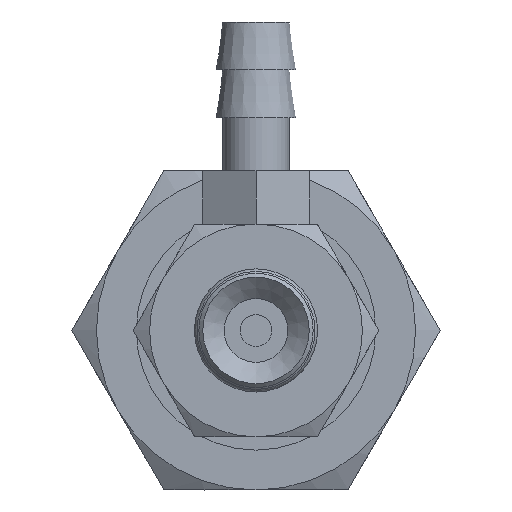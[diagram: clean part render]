
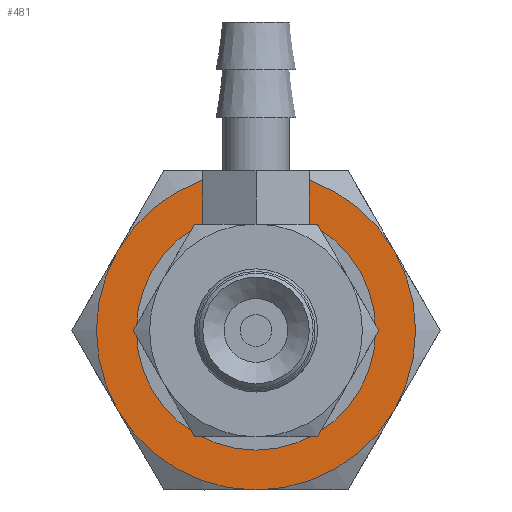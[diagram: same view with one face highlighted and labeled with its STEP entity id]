
A CAD part, front view. The second image highlights one B-rep face of the part: STEP entity #481.
In plain terms, the highlighted planar face has unit normal (0, -1, 0) as drawn and (-1, 0, 0) by its records, which use the part's own axes.
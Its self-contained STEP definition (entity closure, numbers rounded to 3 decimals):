
#481=ADVANCED_FACE('',(#648,#649),#650,.F.);
#648=FACE_BOUND('',#984,.T.);
#649=FACE_OUTER_BOUND('',#985,.T.);
#650=PLANE('',#986);
#984=EDGE_LOOP('',(#1439));
#985=EDGE_LOOP('',(#1440,#1441,#1442,#1443,#1444,#1445));
#986=AXIS2_PLACEMENT_3D('',#1446,#1447,#1448);
#1439=ORIENTED_EDGE('',*,*,#2215,.T.);
#1440=ORIENTED_EDGE('',*,*,#2208,.F.);
#1441=ORIENTED_EDGE('',*,*,#2184,.F.);
#1442=ORIENTED_EDGE('',*,*,#2176,.F.);
#1443=ORIENTED_EDGE('',*,*,#2216,.F.);
#1444=ORIENTED_EDGE('',*,*,#2204,.F.);
#1445=ORIENTED_EDGE('',*,*,#2205,.F.);
#1446=CARTESIAN_POINT('',(0.,0.0,0.0));
#1447=DIRECTION('',(1.0,0.0,0.0));
#1448=DIRECTION('',(0.0,1.0,0.0));
#2176=EDGE_CURVE('',#2435,#2436,#2437,.T.);
#2184=EDGE_CURVE('',#2436,#2450,#2451,.T.);
#2204=EDGE_CURVE('',#2483,#2472,#2485,.T.);
#2205=EDGE_CURVE('',#2486,#2483,#2487,.T.);
#2208=EDGE_CURVE('',#2450,#2486,#2491,.T.);
#2215=EDGE_CURVE('',#2498,#2498,#2499,.T.);
#2216=EDGE_CURVE('',#2472,#2435,#2500,.T.);
#2435=VERTEX_POINT('',#2869);
#2436=VERTEX_POINT('',#2870);
#2437=CIRCLE('',#2871,6.0);
#2450=VERTEX_POINT('',#2936);
#2451=CIRCLE('',#2937,6.0);
#2472=VERTEX_POINT('',#3031);
#2483=VERTEX_POINT('',#3102);
#2485=CIRCLE('',#3114,6.0);
#2486=VERTEX_POINT('',#3115);
#2487=CIRCLE('',#3116,6.0);
#2491=CIRCLE('',#3140,6.0);
#2498=VERTEX_POINT('',#3177);
#2499=CIRCLE('',#3178,4.0);
#2500=CIRCLE('',#3179,6.0);
#2869=CARTESIAN_POINT('',(0.,-5.196,-3.0));
#2870=CARTESIAN_POINT('',(0.,0.0,-6.0));
#2871=AXIS2_PLACEMENT_3D('',#3705,#3706,#3707);
#2936=CARTESIAN_POINT('',(0.,5.196,-3.0));
#2937=AXIS2_PLACEMENT_3D('',#3710,#3711,#3712);
#3031=CARTESIAN_POINT('',(0.,-5.196,3.0));
#3102=CARTESIAN_POINT('',(0.,0.0,6.0));
#3114=AXIS2_PLACEMENT_3D('',#3722,#3723,#3724);
#3115=CARTESIAN_POINT('',(0.,5.196,3.0));
#3116=AXIS2_PLACEMENT_3D('',#3725,#3726,#3727);
#3140=AXIS2_PLACEMENT_3D('',#3728,#3729,#3730);
#3177=CARTESIAN_POINT('',(0.,0.0,-4.0));
#3178=AXIS2_PLACEMENT_3D('',#3740,#3741,#3742);
#3179=AXIS2_PLACEMENT_3D('',#3743,#3744,#3745);
#3705=CARTESIAN_POINT('',(0.,0.0,0.0));
#3706=DIRECTION('',(1.0,0.0,0.0));
#3707=DIRECTION('',(0.0,0.0,-1.0));
#3710=CARTESIAN_POINT('',(0.,0.0,0.0));
#3711=DIRECTION('',(1.0,0.0,0.0));
#3712=DIRECTION('',(0.0,0.0,-1.0));
#3722=CARTESIAN_POINT('',(0.,0.0,0.0));
#3723=DIRECTION('',(1.0,0.0,0.0));
#3724=DIRECTION('',(0.0,0.0,-1.0));
#3725=CARTESIAN_POINT('',(0.,0.0,0.0));
#3726=DIRECTION('',(1.0,0.0,0.0));
#3727=DIRECTION('',(0.0,0.0,-1.0));
#3728=CARTESIAN_POINT('',(0.,0.0,0.0));
#3729=DIRECTION('',(1.0,0.0,0.0));
#3730=DIRECTION('',(0.0,0.0,-1.0));
#3740=CARTESIAN_POINT('',(0.,0.0,0.0));
#3741=DIRECTION('',(1.0,0.0,0.0));
#3742=DIRECTION('',(0.0,0.0,-1.0));
#3743=CARTESIAN_POINT('',(0.,0.0,0.0));
#3744=DIRECTION('',(1.0,0.0,0.0));
#3745=DIRECTION('',(0.0,0.0,-1.0));
